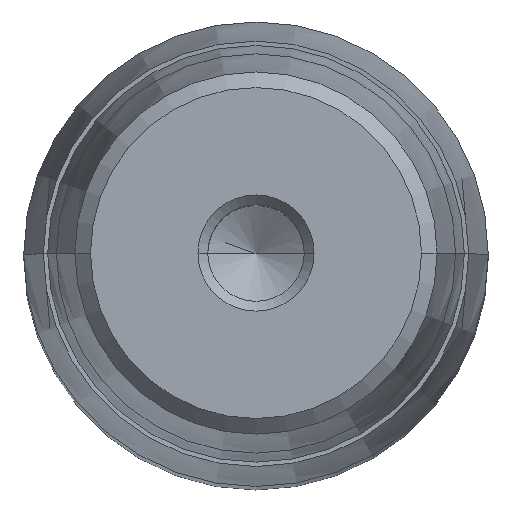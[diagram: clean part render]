
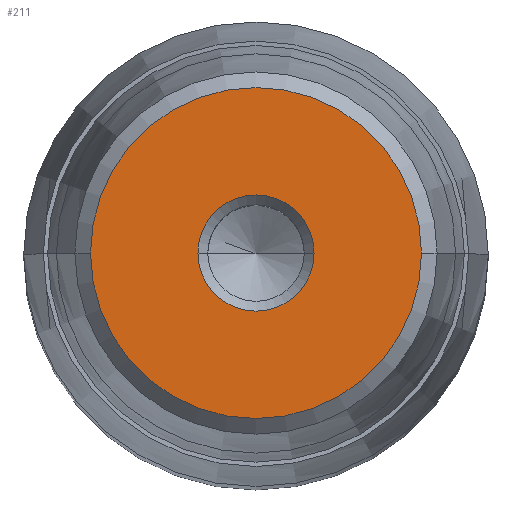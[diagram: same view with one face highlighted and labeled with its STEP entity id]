
A CAD part, top view. The second image highlights one B-rep face of the part: STEP entity #211.
In plain terms, the highlighted planar face has unit normal (0, 0, 1).
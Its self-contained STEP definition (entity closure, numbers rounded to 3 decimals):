
#136=CARTESIAN_POINT('Axis2P3D Location',(0.,0.,48.)) ;
#140=CARTESIAN_POINT('Vertex',(-4.,0.,48.)) ;
#142=CARTESIAN_POINT('Vertex',(4.,0.,48.)) ;
#179=CARTESIAN_POINT('Axis2P3D Location',(0.,4.,48.)) ;
#184=CARTESIAN_POINT('Axis2P3D Location',(0.,0.,48.)) ;
#188=CARTESIAN_POINT('Vertex',(-11.4,0.,48.)) ;
#190=CARTESIAN_POINT('Vertex',(11.4,0.,48.)) ;
#193=CARTESIAN_POINT('Axis2P3D Location',(0.,0.,48.)) ;
#202=CARTESIAN_POINT('Axis2P3D Location',(0.,0.,48.)) ;
#137=DIRECTION('Axis2P3D Direction',(0.,-0.,1.)) ;
#180=DIRECTION('Axis2P3D Direction',(0.,0.,-1.)) ;
#181=DIRECTION('Axis2P3D XDirection',(-1.,0.,0.)) ;
#185=DIRECTION('Axis2P3D Direction',(0.,0.,-1.)) ;
#194=DIRECTION('Axis2P3D Direction',(0.,0.,-1.)) ;
#203=DIRECTION('Axis2P3D Direction',(0.,0.,-1.)) ;
#138=AXIS2_PLACEMENT_3D('Circle Axis2P3D',#136,#137,$) ;
#182=AXIS2_PLACEMENT_3D('Plane Axis2P3D',#179,#180,#181) ;
#186=AXIS2_PLACEMENT_3D('Circle Axis2P3D',#184,#185,$) ;
#195=AXIS2_PLACEMENT_3D('Circle Axis2P3D',#193,#194,$) ;
#204=AXIS2_PLACEMENT_3D('Circle Axis2P3D',#202,#203,$) ;
#199=ORIENTED_EDGE('',*,*,#192,.F.) ;
#200=ORIENTED_EDGE('',*,*,#197,.F.) ;
#208=ORIENTED_EDGE('',*,*,#206,.T.) ;
#209=ORIENTED_EDGE('',*,*,#144,.T.) ;
#210=FACE_BOUND('',#207,.T.) ;
#211=ADVANCED_FACE('722-32x160x193',(#201,#210),#183,.F.) ;
#139=CIRCLE('generated circle',#138,4.) ;
#187=CIRCLE('generated circle',#186,11.4) ;
#196=CIRCLE('generated circle',#195,11.4) ;
#205=CIRCLE('generated circle',#204,4.) ;
#144=EDGE_CURVE('',#141,#143,#139,.F.) ;
#192=EDGE_CURVE('',#189,#191,#187,.T.) ;
#197=EDGE_CURVE('',#191,#189,#196,.T.) ;
#206=EDGE_CURVE('',#143,#141,#205,.T.) ;
#198=EDGE_LOOP('',(#199,#200)) ;
#207=EDGE_LOOP('',(#208,#209)) ;
#201=FACE_OUTER_BOUND('',#198,.T.) ;
#183=PLANE('Plane',#182) ;
#141=VERTEX_POINT('',#140) ;
#143=VERTEX_POINT('',#142) ;
#189=VERTEX_POINT('',#188) ;
#191=VERTEX_POINT('',#190) ;
